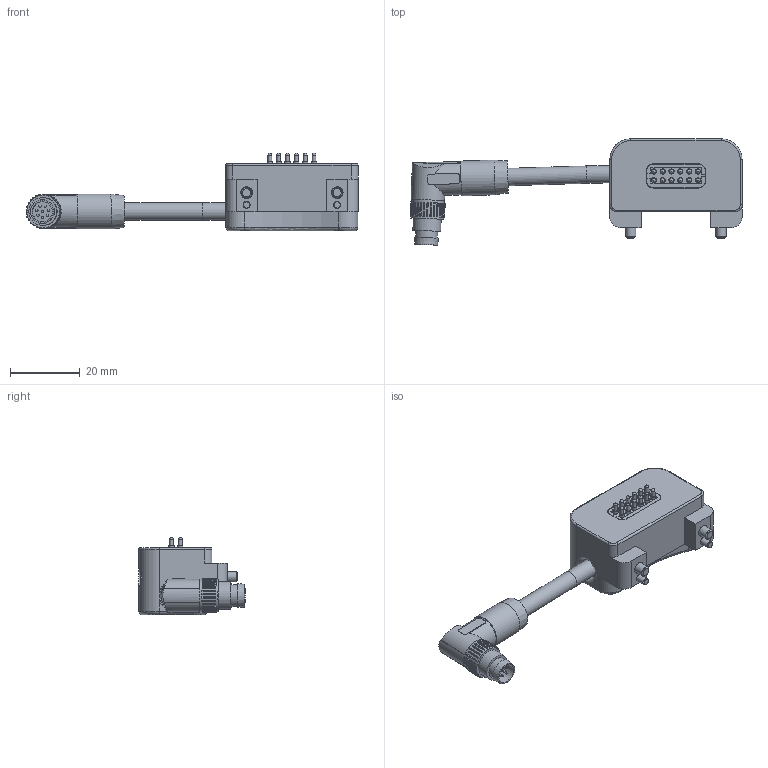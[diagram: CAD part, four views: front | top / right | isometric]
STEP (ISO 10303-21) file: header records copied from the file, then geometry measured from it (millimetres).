
FILE_DESCRIPTION(/* description */ (''),/* implementation_level */ '2;1');
FILE_NAME(/* name */ 'G-SEK100-U-1FE12-40-M8.stp',/* time_stamp */ '2023-12-19T13:51:22+01:00',/* author */ ('vbednarz'),/* organization */ (''),/* preprocessor_version */ 'ST-DEVELOPER v20',/* originating_system */ 'Autodesk Inventor 2024',/* authorisation */ '');
FILE_SCHEMA (('AUTOMOTIVE_DESIGN { 1 0 10303 214 3 1 1 }'));
Length unit declared in the file: millimetre
Products named in the file (1): G-SEK100-U-1FE12-40-M8
Bounding box: 95.44 x 30.55 x 22.24 mm (x, y, z)
Volume: 18085.4 mm3; surface area: 8121.7 mm2
Topology: 6 solids, 6 shells, 526 faces, 1280 edges, 844 vertices
Faces by surface type: plane 266, cylinder 197, cone 24, torus 19, bspline 12, sphere 8
Full cylindrical faces by diameter (mm): 0.6 x8, 1.07 x12, 1.5 x12, 1.8 x2, 2 x2, 2.02 x2, 2.05 x4, 3 x2, 3.4 x2, 4.5 x4, 5 x5, 5.5 x2, 5.8 x2, 6 x2, 6.3 x1, 8 x1, 9.4 x1, 10 x1
Entity records: 16692 total; most frequent: CARTESIAN_POINT 3372, DIRECTION 2781, ORIENTED_EDGE 2528, EDGE_CURVE 1264, AXIS2_PLACEMENT_3D 1075, VERTEX_POINT 844, LINE 631, VECTOR 631
